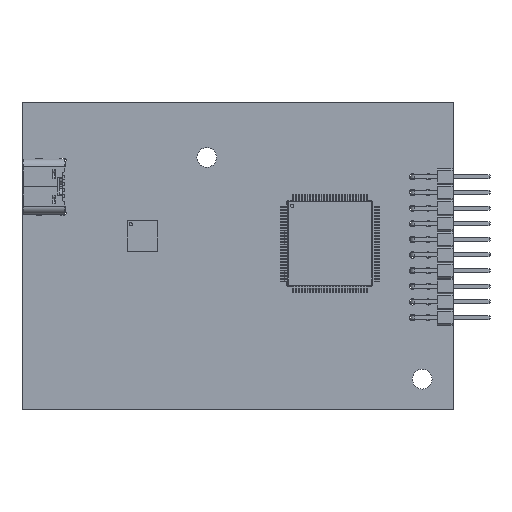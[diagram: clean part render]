
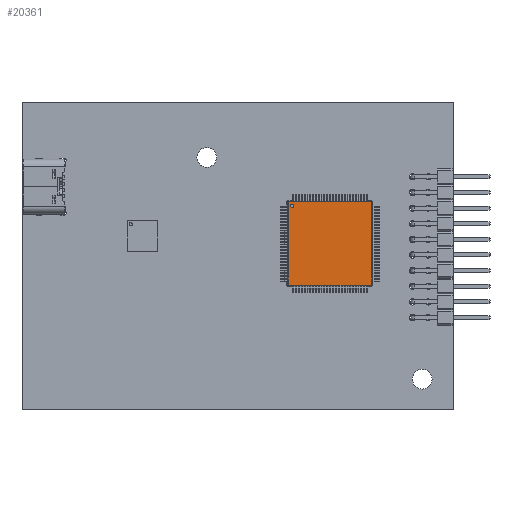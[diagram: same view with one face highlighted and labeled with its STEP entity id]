
A CAD part, top view. The second image highlights one B-rep face of the part: STEP entity #20361.
In plain terms, the highlighted planar face has unit normal (0, 0, 1).
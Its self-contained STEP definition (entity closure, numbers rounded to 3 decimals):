
#9801 = VERTEX_POINT('',#9802);
#9802 = CARTESIAN_POINT('',(-6.724,6.789,1.1));
#10092 = EDGE_CURVE('',#9801,#10093,#10095,.T.);
#10093 = VERTEX_POINT('',#10094);
#10094 = CARTESIAN_POINT('',(6.724,6.789,1.1));
#10095 = B_SPLINE_CURVE_WITH_KNOTS('',2,(#10096,#10097,#10098,#10099,
    #10100),.UNSPECIFIED.,.F.,.F.,(3,1,1,3),(-0.7,
    -0.04,13.52,14.18),.UNSPECIFIED.);
#10096 = CARTESIAN_POINT('',(-7.44,6.789,1.1));
#10097 = CARTESIAN_POINT('',(-7.11,6.789,1.1));
#10098 = CARTESIAN_POINT('',(0.,6.789,1.1));
#10099 = CARTESIAN_POINT('',(7.11,6.789,1.1));
#10100 = CARTESIAN_POINT('',(7.44,6.789,1.1));
#19337 = EDGE_CURVE('',#10093,#19338,#19340,.T.);
#19338 = VERTEX_POINT('',#19339);
#19339 = CARTESIAN_POINT('',(6.789,6.724,1.1));
#19340 = B_SPLINE_CURVE_WITH_KNOTS('',2,(#19341,#19342,#19343,#19344,
    #19345),.UNSPECIFIED.,.F.,.F.,(3,1,1,3),(-0.291,
    -0.04,0.167,0.418),.UNSPECIFIED.);
#19341 = CARTESIAN_POINT('',(6.505,7.007,1.1));
#19342 = CARTESIAN_POINT('',(6.594,6.918,1.1));
#19343 = CARTESIAN_POINT('',(6.756,6.756,1.1));
#19344 = CARTESIAN_POINT('',(6.918,6.594,1.1));
#19345 = CARTESIAN_POINT('',(7.007,6.505,1.1));
#19658 = VERTEX_POINT('',#19659);
#19659 = CARTESIAN_POINT('',(-6.789,6.724,1.1));
#20336 = EDGE_CURVE('',#19658,#9801,#20337,.T.);
#20337 = B_SPLINE_CURVE_WITH_KNOTS('',2,(#20338,#20339,#20340,#20341,
    #20342),.UNSPECIFIED.,.F.,.F.,(3,1,1,3),(-0.291,
    -0.04,0.167,0.418),.UNSPECIFIED.);
#20338 = CARTESIAN_POINT('',(-7.007,6.505,1.1));
#20339 = CARTESIAN_POINT('',(-6.918,6.594,1.1));
#20340 = CARTESIAN_POINT('',(-6.756,6.756,1.1));
#20341 = CARTESIAN_POINT('',(-6.594,6.918,1.1));
#20342 = CARTESIAN_POINT('',(-6.505,7.007,1.1));
#20361 = ADVANCED_FACE('',(#20362,#20415),#20426,.T.);
#20362 = FACE_BOUND('',#20363,.T.);
#20363 = EDGE_LOOP('',(#20364,#20365,#20366,#20376,#20386,#20396,#20406,
    #20414));
#20364 = ORIENTED_EDGE('',*,*,#10092,.F.);
#20365 = ORIENTED_EDGE('',*,*,#20336,.F.);
#20366 = ORIENTED_EDGE('',*,*,#20367,.F.);
#20367 = EDGE_CURVE('',#20368,#19658,#20370,.T.);
#20368 = VERTEX_POINT('',#20369);
#20369 = CARTESIAN_POINT('',(-6.789,-6.724,1.1));
#20370 = B_SPLINE_CURVE_WITH_KNOTS('',2,(#20371,#20372,#20373,#20374,
    #20375),.UNSPECIFIED.,.F.,.F.,(3,1,1,3),(-0.7,
    -0.04,13.52,14.18),.UNSPECIFIED.);
#20371 = CARTESIAN_POINT('',(-6.789,-7.44,1.1));
#20372 = CARTESIAN_POINT('',(-6.789,-7.11,1.1));
#20373 = CARTESIAN_POINT('',(-6.789,0.,1.1));
#20374 = CARTESIAN_POINT('',(-6.789,7.11,1.1));
#20375 = CARTESIAN_POINT('',(-6.789,7.44,1.1));
#20376 = ORIENTED_EDGE('',*,*,#20377,.F.);
#20377 = EDGE_CURVE('',#20378,#20368,#20380,.T.);
#20378 = VERTEX_POINT('',#20379);
#20379 = CARTESIAN_POINT('',(-6.724,-6.789,1.1));
#20380 = B_SPLINE_CURVE_WITH_KNOTS('',2,(#20381,#20382,#20383,#20384,
    #20385),.UNSPECIFIED.,.F.,.F.,(3,1,1,3),(-0.291,
    -0.04,0.167,0.418),.UNSPECIFIED.);
#20381 = CARTESIAN_POINT('',(-6.505,-7.007,1.1));
#20382 = CARTESIAN_POINT('',(-6.594,-6.918,1.1));
#20383 = CARTESIAN_POINT('',(-6.756,-6.756,1.1));
#20384 = CARTESIAN_POINT('',(-6.918,-6.594,1.1));
#20385 = CARTESIAN_POINT('',(-7.007,-6.505,1.1));
#20386 = ORIENTED_EDGE('',*,*,#20387,.F.);
#20387 = EDGE_CURVE('',#20388,#20378,#20390,.T.);
#20388 = VERTEX_POINT('',#20389);
#20389 = CARTESIAN_POINT('',(6.724,-6.789,1.1));
#20390 = B_SPLINE_CURVE_WITH_KNOTS('',2,(#20391,#20392,#20393,#20394,
    #20395),.UNSPECIFIED.,.F.,.F.,(3,1,1,3),(-0.7,
    -0.04,13.52,14.18),.UNSPECIFIED.);
#20391 = CARTESIAN_POINT('',(7.44,-6.789,1.1));
#20392 = CARTESIAN_POINT('',(7.11,-6.789,1.1));
#20393 = CARTESIAN_POINT('',(0.,-6.789,1.1));
#20394 = CARTESIAN_POINT('',(-7.11,-6.789,1.1));
#20395 = CARTESIAN_POINT('',(-7.44,-6.789,1.1));
#20396 = ORIENTED_EDGE('',*,*,#20397,.F.);
#20397 = EDGE_CURVE('',#20398,#20388,#20400,.T.);
#20398 = VERTEX_POINT('',#20399);
#20399 = CARTESIAN_POINT('',(6.789,-6.724,1.1));
#20400 = B_SPLINE_CURVE_WITH_KNOTS('',2,(#20401,#20402,#20403,#20404,
    #20405),.UNSPECIFIED.,.F.,.F.,(3,1,1,3),(-0.291,
    -0.04,0.167,0.418),.UNSPECIFIED.);
#20401 = CARTESIAN_POINT('',(7.007,-6.505,1.1));
#20402 = CARTESIAN_POINT('',(6.918,-6.594,1.1));
#20403 = CARTESIAN_POINT('',(6.756,-6.756,1.1));
#20404 = CARTESIAN_POINT('',(6.594,-6.918,1.1));
#20405 = CARTESIAN_POINT('',(6.505,-7.007,1.1));
#20406 = ORIENTED_EDGE('',*,*,#20407,.F.);
#20407 = EDGE_CURVE('',#19338,#20398,#20408,.T.);
#20408 = B_SPLINE_CURVE_WITH_KNOTS('',2,(#20409,#20410,#20411,#20412,
    #20413),.UNSPECIFIED.,.F.,.F.,(3,1,1,3),(-0.7,
    -0.04,13.52,14.18),.UNSPECIFIED.);
#20409 = CARTESIAN_POINT('',(6.789,7.44,1.1));
#20410 = CARTESIAN_POINT('',(6.789,7.11,1.1));
#20411 = CARTESIAN_POINT('',(6.789,0.,1.1));
#20412 = CARTESIAN_POINT('',(6.789,-7.11,1.1));
#20413 = CARTESIAN_POINT('',(6.789,-7.44,1.1));
#20414 = ORIENTED_EDGE('',*,*,#19337,.F.);
#20415 = FACE_BOUND('',#20416,.T.);
#20416 = EDGE_LOOP('',(#20417));
#20417 = ORIENTED_EDGE('',*,*,#20418,.F.);
#20418 = EDGE_CURVE('',#20419,#20419,#20421,.T.);
#20419 = VERTEX_POINT('',#20420);
#20420 = CARTESIAN_POINT('',(-6.129,5.879,1.1));
#20421 = CIRCLE('',#20422,0.25);
#20422 = AXIS2_PLACEMENT_3D('',#20423,#20424,#20425);
#20423 = CARTESIAN_POINT('',(-6.129,6.129,1.1));
#20424 = DIRECTION('',(-0.,0.,1.));
#20425 = DIRECTION('',(0.,-1.,0.));
#20426 = PLANE('',#20427);
#20427 = AXIS2_PLACEMENT_3D('',#20428,#20429,#20430);
#20428 = CARTESIAN_POINT('',(-6.74,6.829,1.1));
#20429 = DIRECTION('',(0.,0.,1.));
#20430 = DIRECTION('',(0.702,-0.712,0.));
